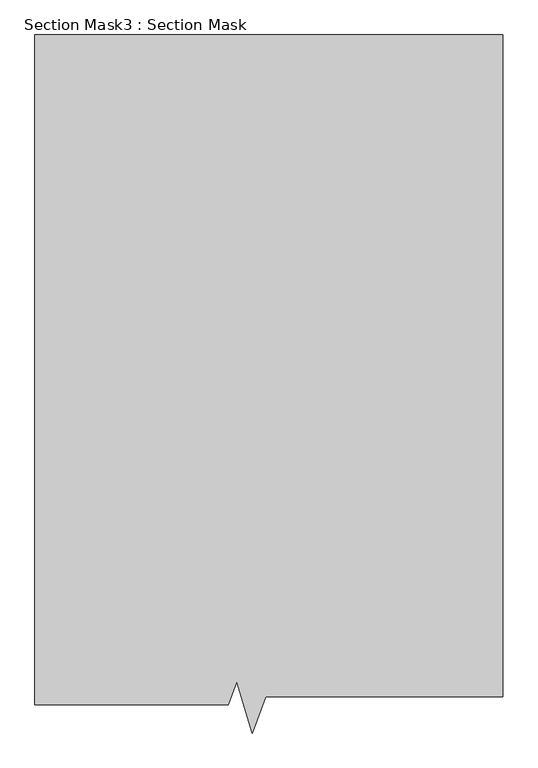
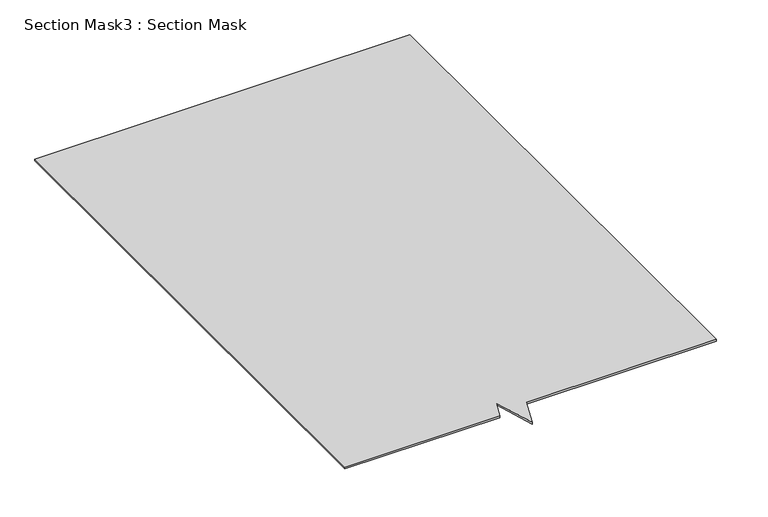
"""IFC4 building model written with IfcOpenShell, lengths in millimetres: proxy geometry, Section Mask3 : Section Mask."""

from ifc_helpers import new_model, si_unit, frame, origin, place, context, project, spatial, polyline, outline, extrude, source, transform, mapped, element, save


def section_mask3_section_mask_eed57ca7(model_context):
    return source(origin(), model_context, "Body", "SweptSolid", [
        extrude(outline(polyline([(8124.664325, 631.273934), (7595.23088, 631.273934), (7595.23088, 2465.4614947), (8876.4836184, 2465.4614947), (8876.4836184, 652.1224056), (8227.2982256, 652.1224056), (8190.6813689, 552.9595639), (8147.6812645, 693.6065681), (8124.664325, 631.273934)])), frame((0.0, 0.0, 45.0273345), z_axis=(0.0, 0.0, 1.0), x_axis=(1.0, 0.0, 0.0)), (0.0, 0.0, 1.0), 6.5581445),
    ])


if __name__ == "__main__":
    model = new_model("IFC4")
    model_context = context("Model", 3, world=origin())
    ifc_project = project(units=[si_unit("LENGTHUNIT", "METRE", prefix="MILLI")], contexts=[model_context])
    site = spatial("IfcSite", under=ifc_project)
    building = spatial("IfcBuilding", under=site)
    placement = place(None, origin())
    section_mask3_section_mask_shape = section_mask3_section_mask_eed57ca7(model_context)
    element("IfcBuildingElementProxy", 1, Name="Section Mask3 : Section Mask", ObjectType="Section Mask3 : Section Mask", at=placement, inside=building, context=model_context, shape_type="MappedRepresentation", body=[
        mapped(section_mask3_section_mask_shape, transform((0.0, 0.0, 0.0), x_axis=(1.0, 0.0, 0.0), y_axis=(0.0, 1.0, 0.0), z_axis=(0.0, 0.0, 1.0))),
    ])
    save(model, "model.ifc")
